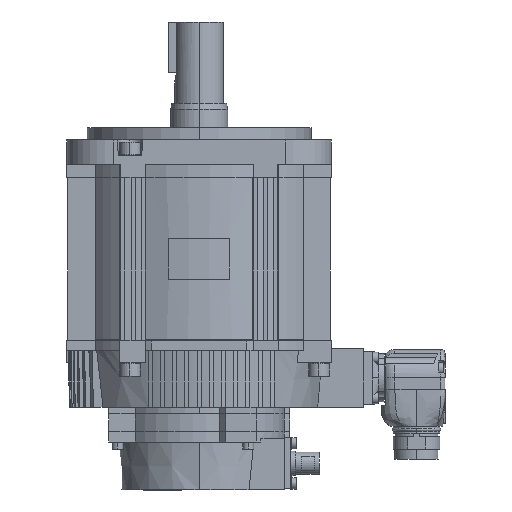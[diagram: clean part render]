
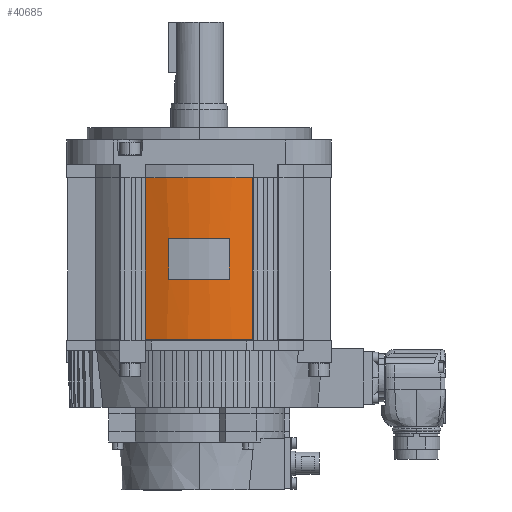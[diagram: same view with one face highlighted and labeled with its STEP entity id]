
A CAD part, left-side view. The second image highlights one B-rep face of the part: STEP entity #40685.
In plain terms, the highlighted cylindrical face has radius 64.3 mm (diameter 128.6 mm), a partial arc.
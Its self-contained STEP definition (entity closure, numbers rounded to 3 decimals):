
#11396 = CARTESIAN_POINT ( 'NONE',  ( -62.564, -14.842, -48.45 ) ) ;
#11397 = DIRECTION ( 'NONE',  ( 0., 0., -1. ) ) ;
#11398 = VECTOR ( 'NONE', #11397, 1000. ) ;
#11399 = CARTESIAN_POINT ( 'NONE',  ( -62.564, -14.842, -200.368 ) ) ;
#11404 = LINE ( 'NONE', #11399, #11398 ) ;
#11443 = DIRECTION ( 'NONE',  ( -1., 0., 0. ) ) ;
#11444 = DIRECTION ( 'NONE',  ( 0., 0., -1. ) ) ;
#11445 = CARTESIAN_POINT ( 'NONE',  ( 0., 0., -48.45 ) ) ;
#11446 = AXIS2_PLACEMENT_3D ( 'NONE', #11445, #11444, #11443 ) ;
#11447 = CIRCLE ( 'NONE', #11446, 64.3 ) ;
#11448 = CARTESIAN_POINT ( 'NONE',  ( -62.564, 14.842, -48.45 ) ) ;
#11449 = DIRECTION ( 'NONE',  ( 0., 0., 1. ) ) ;
#11450 = VECTOR ( 'NONE', #11449, 1000. ) ;
#11451 = CARTESIAN_POINT ( 'NONE',  ( -62.564, 14.842, -200.368 ) ) ;
#11452 = LINE ( 'NONE', #11451, #11450 ) ;
#11453 = CARTESIAN_POINT ( 'NONE',  ( -62.564, 14.842, -68.45 ) ) ;
#11454 = DIRECTION ( 'NONE',  ( -1., 0., 0. ) ) ;
#11455 = DIRECTION ( 'NONE',  ( 0., 0., -1. ) ) ;
#11456 = CARTESIAN_POINT ( 'NONE',  ( 0., 0., -68.45 ) ) ;
#11457 = AXIS2_PLACEMENT_3D ( 'NONE', #11456, #11455, #11454 ) ;
#11458 = CIRCLE ( 'NONE', #11457, 64.3 ) ;
#11459 = CARTESIAN_POINT ( 'NONE',  ( -62.564, -14.842, -68.45 ) ) ;
#11602 = VECTOR ( 'NONE', #11655, 1000. ) ;
#11603 = CARTESIAN_POINT ( 'NONE',  ( -58.677, 26.297, -116.906 ) ) ;
#11604 = LINE ( 'NONE', #11603, #11602 ) ;
#11606 = CARTESIAN_POINT ( 'NONE',  ( -58.677, 26.297, -18.6 ) ) ;
#11607 = DIRECTION ( 'NONE',  ( 0., -1., 0. ) ) ;
#11608 = DIRECTION ( 'NONE',  ( 0., 0., -1. ) ) ;
#11609 = CARTESIAN_POINT ( 'NONE',  ( 0., 0., -18.6 ) ) ;
#11610 = AXIS2_PLACEMENT_3D ( 'NONE', #11609, #11608, #11607 ) ;
#11611 = CIRCLE ( 'NONE', #11610, 64.3 ) ;
#11612 = CARTESIAN_POINT ( 'NONE',  ( -58.677, -26.297, -18.6 ) ) ;
#11613 = DIRECTION ( 'NONE',  ( 0., 0., 1. ) ) ;
#11614 = VECTOR ( 'NONE', #11613, 1000. ) ;
#11615 = CARTESIAN_POINT ( 'NONE',  ( -58.677, -26.297, -116.906 ) ) ;
#11616 = LINE ( 'NONE', #11615, #11614 ) ;
#11617 = CARTESIAN_POINT ( 'NONE',  ( -58.677, 26.297, -98.3 ) ) ;
#11618 = CARTESIAN_POINT ( 'NONE',  ( -58.677, -26.297, -98.3 ) ) ;
#11619 = DIRECTION ( 'NONE',  ( -1., 0., 0. ) ) ;
#11620 = DIRECTION ( 'NONE',  ( 0., 0., -1. ) ) ;
#11621 = AXIS2_PLACEMENT_3D ( 'NONE', #11627, #11620, #11619 ) ;
#11622 = CIRCLE ( 'NONE', #11621, 64.3 ) ;
#11627 = CARTESIAN_POINT ( 'NONE',  ( 0., 0., -98.3 ) ) ;
#11655 = DIRECTION ( 'NONE',  ( 0., 0., 1. ) ) ;
#11662 = DIRECTION ( 'NONE',  ( 1., 0., 0. ) ) ;
#11663 = DIRECTION ( 'NONE',  ( 0., 0., 1. ) ) ;
#11664 = AXIS2_PLACEMENT_3D ( 'NONE', #11666, #11663, #11662 ) ;
#11665 = CYLINDRICAL_SURFACE ( 'NONE', #11664, 64.3 ) ;
#11666 = CARTESIAN_POINT ( 'NONE',  ( 0., 0., -200.368 ) ) ;
#11681 = FACE_OUTER_BOUND ( 'NONE', #40655, .T. ) ;
#11682 = FACE_BOUND ( 'NONE', #40561, .T. ) ;
#40561 = EDGE_LOOP ( 'NONE', ( #40562, #40567, #40571, #40576 ) ) ;
#40562 = ORIENTED_EDGE ( 'NONE', *, *, #40563, .T. ) ;
#40563 = EDGE_CURVE ( 'NONE', #40565, #40566, #11404, .T. ) ;
#40565 = VERTEX_POINT ( 'NONE', #11396 ) ;
#40566 = VERTEX_POINT ( 'NONE', #11459 ) ;
#40567 = ORIENTED_EDGE ( 'NONE', *, *, #40568, .T. ) ;
#40568 = EDGE_CURVE ( 'NONE', #40566, #40570, #11458, .T. ) ;
#40570 = VERTEX_POINT ( 'NONE', #11453 ) ;
#40571 = ORIENTED_EDGE ( 'NONE', *, *, #40574, .T. ) ;
#40574 = EDGE_CURVE ( 'NONE', #40570, #40575, #11452, .T. ) ;
#40575 = VERTEX_POINT ( 'NONE', #11448 ) ;
#40576 = ORIENTED_EDGE ( 'NONE', *, *, #40578, .F. ) ;
#40578 = EDGE_CURVE ( 'NONE', #40565, #40575, #11447, .T. ) ;
#40655 = EDGE_LOOP ( 'NONE', ( #40656, #40661, #40665, #40671 ) ) ;
#40656 = ORIENTED_EDGE ( 'NONE', *, *, #40657, .F. ) ;
#40657 = EDGE_CURVE ( 'NONE', #40659, #40660, #11622, .T. ) ;
#40659 = VERTEX_POINT ( 'NONE', #11618 ) ;
#40660 = VERTEX_POINT ( 'NONE', #11617 ) ;
#40661 = ORIENTED_EDGE ( 'NONE', *, *, #40662, .T. ) ;
#40662 = EDGE_CURVE ( 'NONE', #40659, #40663, #11616, .T. ) ;
#40663 = VERTEX_POINT ( 'NONE', #11612 ) ;
#40665 = ORIENTED_EDGE ( 'NONE', *, *, #40666, .T. ) ;
#40666 = EDGE_CURVE ( 'NONE', #40663, #40668, #11611, .T. ) ;
#40668 = VERTEX_POINT ( 'NONE', #11606 ) ;
#40671 = ORIENTED_EDGE ( 'NONE', *, *, #40673, .F. ) ;
#40673 = EDGE_CURVE ( 'NONE', #40660, #40668, #11604, .T. ) ;
#40685 = ADVANCED_FACE ( 'NONE', ( #11682, #11681 ), #11665, .T. ) ;
